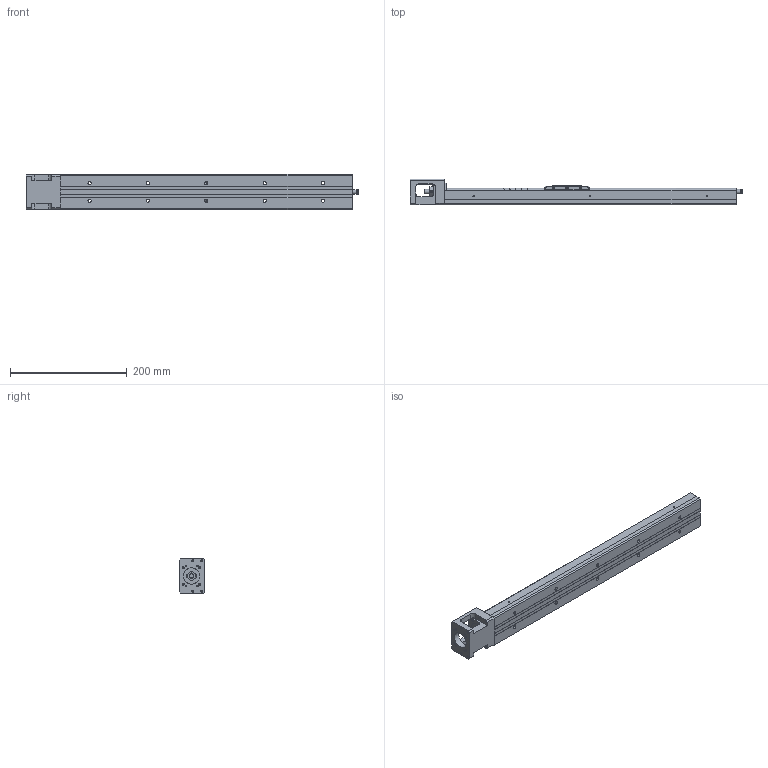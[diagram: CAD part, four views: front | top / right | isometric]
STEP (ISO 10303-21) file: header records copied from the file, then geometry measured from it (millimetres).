
FILE_DESCRIPTION(/* description */ (''),/* implementation_level */ '2;1');
FILE_NAME(/* name */ 'KP33N-500-D.stp',/* time_stamp */ '2020-06-04T17:23:20+08:00',/* author */ (''),/* organization */ (''),/* preprocessor_version */ 'ST-DEVELOPER v14',/* originating_system */ 'SIEMENS PLM Software NX 8.0',/* authorisation */ '');
FILE_SCHEMA (('AUTOMOTIVE_DESIGN { 1 0 10303 214 3 1 1 1 }'));
Length unit declared in the file: millimetre
Products named in the file (1): model1
Bounding box: 569 x 44.45 x 60 mm (x, y, z)
Volume: 588581 mm3; surface area: 162657.6 mm2
Topology: 4 solids, 12 shells, 603 faces, 1543 edges, 1014 vertices
Faces by surface type: plane 350, cylinder 175, bspline 31, cone 22, extrusion 17, torus 6, revolution 2
Full cylindrical faces by diameter (mm): 1.6 x3, 1.65 x4, 2.15 x3, 2.42 x4, 2.45 x2, 2.5 x12, 3 x3, 3.2 x4, 3.3 x4, 3.4 x3, 3.5 x6, 4 x6, 4.135 x4, 5.5 x10, 6 x4, 7.6 x1, 8 x4, 9.5 x10, 11.8 x2, 12 x6, 12.8 x1, 13 x2, 14 x1, 21.5 x1, 28 x1
Entity records: 32676 total; most frequent: CARTESIAN_POINT 15857, DIRECTION 2728, ORIENTED_EDGE 2696, EDGE_CURVE 1348, AXIS2_PLACEMENT_3D 967, VERTEX_POINT 950, EDGE_LOOP 838, VECTOR 792
